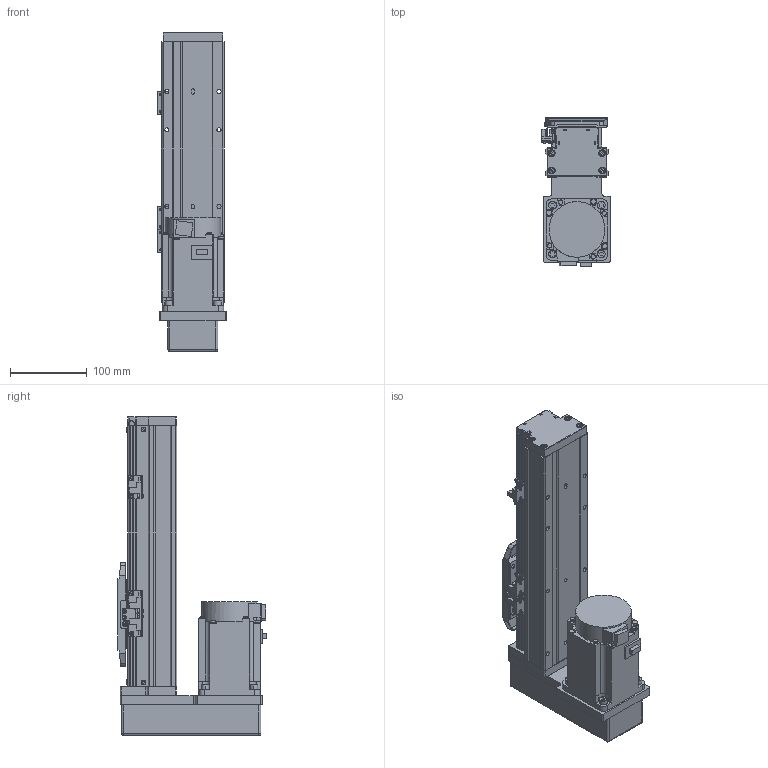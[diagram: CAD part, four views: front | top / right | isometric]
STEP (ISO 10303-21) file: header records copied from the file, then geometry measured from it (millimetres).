
FILE_DESCRIPTION (( 'STEP AP203' ), '1' );
FILE_NAME ('GTH8-150-BM-M75-C4.step', '2023-02-14T02:27:33', ( '微软用户' ), ( '微软中国' ), 'SwSTEP 2.0', 'SolidWorks 2020', '' );
FILE_SCHEMA (( 'CONFIG_CONTROL_DESIGN' ));
Length unit declared in the file: millimetre
Products named in the file (18): GTH80-022; BTH-M3X5X6; GTH80-001_150; GBT 70.1-M3℅6; CTHA86-015-3_CTHA86-015-4; GTH80-003; GBT 70.1-M4×16; CTHA86-035; GTH80-004; GTH80-028; hg-kn73j_-s100; GTH80-006; GTH50-024; GTH8-150-BM-M75-C4; GTH80-013; GTH50-023; GBT 70.3-M3℅6; GBT96.1-2002 3×0.8
Assembly tree (57 placements, depth 2):
  GTH8-150-BM-M75-C4
    GTH80-001_150
    GTH80-003
    GTH80-004
    GTH80-006
    GTH80-013
    GBT 70.3-M3℅6  x4
    GTH80-022
    GBT 70.1-M3℅6  x14
    GBT 70.1-M4×16  x8
    GTH80-028  x2
    GTH50-024  x3
    GTH50-023  x3
    GBT96.1-2002 3×0.8  x6
    BTH-M3X5X6  x8
    CTHA86-015-3_CTHA86-015-4
    CTHA86-035
    hg-kn73j_-s100
Bounding box: 89.4 x 195.3 x 416 mm (x, y, z)
Volume: 3020303.1 mm3; surface area: 355202.3 mm2
Topology: 59 solids, 59 shells, 2179 faces, 5046 edges, 3088 vertices
Faces by surface type: plane 1153, cylinder 611, cone 243, torus 158, sphere 12, bspline 2
Entity records: 38996 total; most frequent: CARTESIAN_POINT 6551, DIRECTION 6417, ORIENTED_EDGE 5902, EDGE_CURVE 2951, AXIS2_PLACEMENT_3D 2254, LINE 1909, VECTOR 1909, VERTEX_POINT 1863
